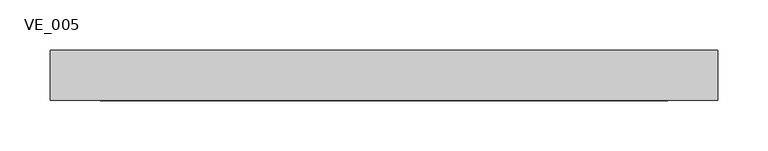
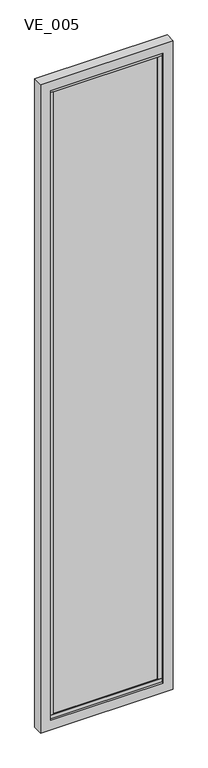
"""IFC4 building model written with IfcOpenShell, lengths in millimetres: plate geometry, TRP_CP_ARC_PF_RE : VE_005."""

from ifc_helpers import new_model, si_unit, frame, origin, place, context, project, spatial, polyline, outline, extrude, source, transform, mapped, element, save


def ve_005_3c51ae4a(model_context):
    return source(origin(), model_context, "Body", "SweptSolid", [
        extrude(outline(polyline([(263.75, -10.0), (-263.75, -10.0), (-263.75, 10.0), (263.75, 10.0), (263.75, -10.0)])), frame((0.0, 0.0, 70.0), z_axis=(0.0, 0.0, 1.0), x_axis=(1.0, 0.0, 0.0)), (0.0, 0.0, 1.0), 3310.0),
        extrude(outline(polyline([(283.75, -15.0), (263.75, -15.0), (263.75, 15.0), (283.75, 15.0), (283.75, -15.0)])), frame((0.0, 0.0, 70.0), z_axis=(0.0, 0.0, 1.0), x_axis=(1.0, 0.0, 0.0)), (0.0, 0.0, 1.0), 3310.0),
        extrude(outline(polyline([(-263.75, -15.0), (-283.75, -15.0), (-283.75, 15.0), (-263.75, 15.0), (-263.75, -15.0)])), frame((0.0, 0.0, 70.0), z_axis=(0.0, 0.0, 1.0), x_axis=(1.0, 0.0, 0.0)), (0.0, 0.0, 1.0), 3310.0),
        extrude(outline(polyline([(283.75, -15.0), (-283.75, -15.0), (-283.75, 15.0), (283.75, 15.0), (283.75, -15.0)])), frame((0.0, 0.0, 50.0), z_axis=(0.0, 0.0, 1.0), x_axis=(1.0, 0.0, 0.0)), (0.0, 0.0, 1.0), 20.0),
        extrude(outline(polyline([(283.75, -15.0), (-283.75, -15.0), (-283.75, 15.0), (283.75, 15.0), (283.75, -15.0)])), frame((0.0, 0.0, 3380.0), z_axis=(0.0, 0.0, 1.0), x_axis=(1.0, 0.0, 0.0)), (0.0, 0.0, 1.0), 20.0),
        extrude(outline(polyline([(3450.0, 333.75), (3450.0, -333.75), (0.0, -333.75), (0.0, 333.75), (3450.0, 333.75)]), holes=[polyline([(50.0, 283.75), (50.0, -283.75), (3400.0, -283.75), (3400.0, 283.75), (50.0, 283.75)])]), frame((0.0, -25.0, 0.0), z_axis=(0.0, 1.0, 0.0), x_axis=(0.0, 0.0, 1.0)), (0.0, 0.0, 1.0), 50.0),
    ])


if __name__ == "__main__":
    model = new_model("IFC4")
    model_context = context("Model", 3, world=origin())
    ifc_project = project(units=[si_unit("LENGTHUNIT", "METRE", prefix="MILLI")], contexts=[model_context])
    site = spatial("IfcSite", under=ifc_project)
    building = spatial("IfcBuilding", under=site)
    placement = place(None, origin())
    ve_005_shape = ve_005_3c51ae4a(model_context)
    element("IfcPlate", 1, ObjectType="TRP_CP_ARC_PF_RE : VE_005", at=placement, inside=building, context=model_context, shape_type="MappedRepresentation", body=[
        mapped(ve_005_shape, transform((0.0, 0.0, 0.0), x_axis=(1.0, 0.0, 0.0), y_axis=(0.0, 1.0, 0.0), z_axis=(0.0, 0.0, 1.0))),
    ])
    save(model, "model.ifc")
